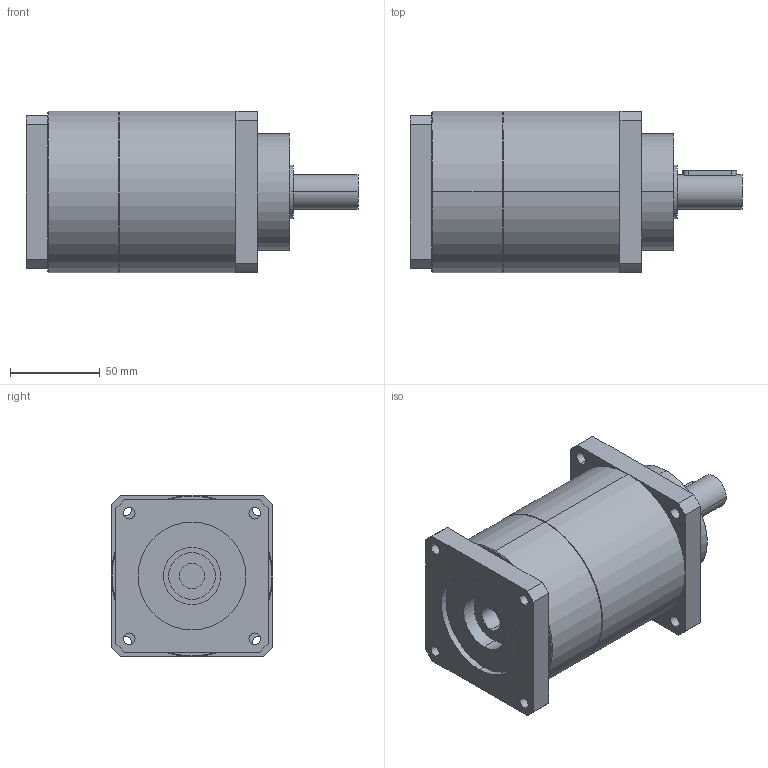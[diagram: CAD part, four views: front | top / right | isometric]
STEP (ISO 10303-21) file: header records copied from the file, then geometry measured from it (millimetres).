
FILE_DESCRIPTION(('CoCreate Modeling STEP Export'),'2;1');
FILE_NAME('GPT90_ig-9-12-16-20-25-28-35-40-50-70-100_19_B5T_14_P36.stp','2015-02-04T11:29:56',(''),(''),'CoCreate Modeling STEP processor for AP214 (Solid Model)','CoCreate Modeling 16.00C 25-Feb-2009 (C) Parametric Technology GmbH','');
FILE_SCHEMA(('AUTOMOTIVE_DESIGN { 1 0 10303 214 1 1 1 1 }'));
Length unit declared in the file: millimetre
Products named in the file (2): GPT90_ig-9-12-16-20-25-28-35-40-50-70-100_19_B5T_14_P36
Assembly tree (1 placements, depth 2):
  GPT90_ig-9-12-16-20-25-28-35-40-50-70-100_19_B5T_14_P36
    GPT90_ig-9-12-16-20-25-28-35-40-50-70-100_19_B5T_14_P36
Bounding box: 185 x 90 x 90 mm (x, y, z)
Volume: 897949.2 mm3; surface area: 67463.2 mm2
Topology: 1 solids, 1 shells, 84 faces, 225 edges, 152 vertices
Faces by surface type: cylinder 42, plane 38, cone 4
Entity records: 2707 total; most frequent: CARTESIAN_POINT 758, ORIENTED_EDGE 450, DIRECTION 322, EDGE_CURVE 225, VERTEX_POINT 152, AXIS2_PLACEMENT_3D 113, EDGE_LOOP 109, VECTOR 96
